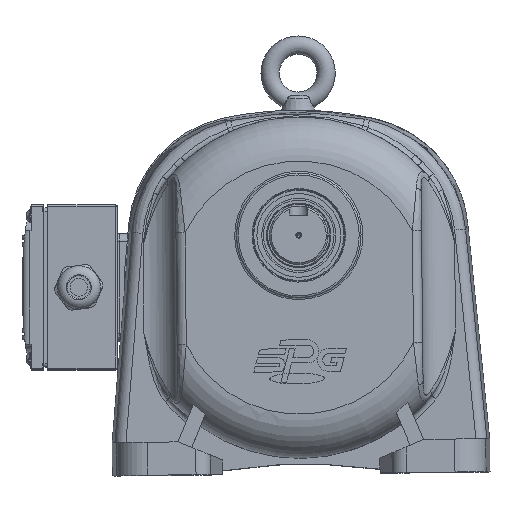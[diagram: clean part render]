
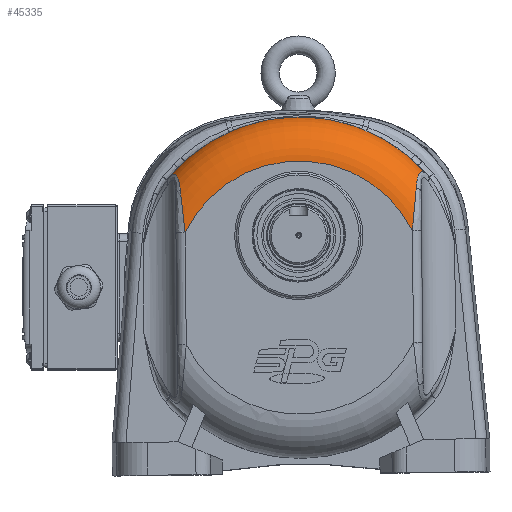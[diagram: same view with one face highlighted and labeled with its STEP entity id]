
A CAD part, top view. The second image highlights one B-rep face of the part: STEP entity #45335.
In plain terms, the highlighted toroidal (fillet/blend) face has major radius 69.104 mm and minor radius 24 mm.
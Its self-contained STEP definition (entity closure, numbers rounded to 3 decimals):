
#816=TOROIDAL_SURFACE('',#49215,69.104,24.);
#9258=FACE_OUTER_BOUND('',#12045,.T.);
#12045=EDGE_LOOP('',(#36399,#36400,#36401,#36402,#36403,#36404));
#15041=CIRCLE('',#49175,93.097);
#15051=CIRCLE('',#49216,69.104);
#17711=B_SPLINE_CURVE_WITH_KNOTS('',3,(#96805,#96806,#96807,#96808,#96809,
#96810,#96811,#96812,#96813,#96814),.UNSPECIFIED.,.F.,.F.,(4,1,1,1,1,1,
1,4),(-1.941,-1.664,-1.387,-1.109,
-0.832,-0.555,-0.277,0.),
 .UNSPECIFIED.);
#17712=B_SPLINE_CURVE_WITH_KNOTS('',3,(#96816,#96817,#96818,#96819,#96820,
#96821),.UNSPECIFIED.,.F.,.F.,(4,1,1,4),(-2.176,-1.243,
-0.622,0.),.UNSPECIFIED.);
#17713=B_SPLINE_CURVE_WITH_KNOTS('',3,(#96825,#96826,#96827,#96828,#96829,
#96830),.UNSPECIFIED.,.F.,.F.,(4,1,1,4),(-2.176,-1.554,
-0.932,0.),.UNSPECIFIED.);
#17714=B_SPLINE_CURVE_WITH_KNOTS('',3,(#96831,#96832,#96833,#96834,#96835,
#96836,#96837,#96838,#96839,#96840),.UNSPECIFIED.,.F.,.F.,(4,1,1,1,1,1,
1,4),(-1.942,-1.664,-1.387,-1.109,
-0.832,-0.555,-0.277,0.),
 .UNSPECIFIED.);
#20151=VERTEX_POINT('',#96152);
#20153=VERTEX_POINT('',#96172);
#20190=VERTEX_POINT('',#96804);
#20191=VERTEX_POINT('',#96815);
#20192=VERTEX_POINT('',#96822);
#20193=VERTEX_POINT('',#96824);
#25955=EDGE_CURVE('',#20151,#20153,#15041,.T.);
#26020=EDGE_CURVE('',#20190,#20153,#17711,.T.);
#26021=EDGE_CURVE('',#20191,#20190,#17712,.T.);
#26022=EDGE_CURVE('',#20191,#20192,#15051,.T.);
#26023=EDGE_CURVE('',#20193,#20192,#17713,.T.);
#26024=EDGE_CURVE('',#20151,#20193,#17714,.T.);
#36399=ORIENTED_EDGE('',*,*,#25955,.T.);
#36400=ORIENTED_EDGE('',*,*,#26020,.F.);
#36401=ORIENTED_EDGE('',*,*,#26021,.F.);
#36402=ORIENTED_EDGE('',*,*,#26022,.T.);
#36403=ORIENTED_EDGE('',*,*,#26023,.F.);
#36404=ORIENTED_EDGE('',*,*,#26024,.F.);
#45335=ADVANCED_FACE('',(#9258),#816,.T.);
#49175=AXIS2_PLACEMENT_3D('',#96177,#57517,#57518);
#49215=AXIS2_PLACEMENT_3D('',#96803,#57631,#57632);
#49216=AXIS2_PLACEMENT_3D('',#96823,#57633,#57634);
#57517=DIRECTION('center_axis',(0.,0.,
1.));
#57518=DIRECTION('ref_axis',(-0.769,0.639,0.));
#57631=DIRECTION('center_axis',(0.,0.,
1.));
#57632=DIRECTION('ref_axis',(1.,0.01,0.));
#57633=DIRECTION('center_axis',(0.,0.,
-1.));
#57634=DIRECTION('ref_axis',(0.893,0.451,0.));
#96152=CARTESIAN_POINT('',(154.215,115.611,23.051));
#96172=CARTESIAN_POINT('',(12.284,114.126,23.051));
#96177=CARTESIAN_POINT('Origin',(83.88,54.619,23.051));
#96803=CARTESIAN_POINT('Origin',(83.88,54.619,22.439));
#96804=CARTESIAN_POINT('',(18.965,107.671,41.386));
#96805=CARTESIAN_POINT('Ctrl Pts',(18.965,107.671,41.386));
#96806=CARTESIAN_POINT('Ctrl Pts',(18.864,108.605,40.865));
#96807=CARTESIAN_POINT('Ctrl Pts',(18.639,110.459,39.689));
#96808=CARTESIAN_POINT('Ctrl Pts',(18.192,112.977,37.516));
#96809=CARTESIAN_POINT('Ctrl Pts',(17.542,115.082,34.827));
#96810=CARTESIAN_POINT('Ctrl Pts',(16.577,116.409,31.648));
#96811=CARTESIAN_POINT('Ctrl Pts',(15.272,116.578,28.348));
#96812=CARTESIAN_POINT('Ctrl Pts',(13.791,115.711,25.413));
#96813=CARTESIAN_POINT('Ctrl Pts',(12.782,114.696,23.788));
#96814=CARTESIAN_POINT('Ctrl Pts',(12.284,114.126,23.051));
#96815=CARTESIAN_POINT('',(21.564,84.488,46.439));
#96816=CARTESIAN_POINT('Ctrl Pts',(21.564,84.488,46.439));
#96817=CARTESIAN_POINT('Ctrl Pts',(21.206,87.752,46.439));
#96818=CARTESIAN_POINT('Ctrl Pts',(20.571,93.315,46.128));
#96819=CARTESIAN_POINT('Ctrl Pts',(19.68,101.168,44.379));
#96820=CARTESIAN_POINT('Ctrl Pts',(19.193,105.576,42.553));
#96821=CARTESIAN_POINT('Ctrl Pts',(18.965,107.671,41.386));
#96822=CARTESIAN_POINT('',(145.557,85.785,46.439));
#96823=CARTESIAN_POINT('Origin',(83.88,54.619,46.439));
#96824=CARTESIAN_POINT('',(147.67,109.017,41.386));
#96825=CARTESIAN_POINT('Ctrl Pts',(147.67,109.017,41.386));
#96826=CARTESIAN_POINT('Ctrl Pts',(147.486,106.919,42.553));
#96827=CARTESIAN_POINT('Ctrl Pts',(147.091,102.501,44.38));
#96828=CARTESIAN_POINT('Ctrl Pts',(146.364,94.626,46.129));
#96829=CARTESIAN_POINT('Ctrl Pts',(145.847,89.056,46.439));
#96830=CARTESIAN_POINT('Ctrl Pts',(145.557,85.785,46.439));
#96831=CARTESIAN_POINT('Ctrl Pts',(154.215,115.611,23.051));
#96832=CARTESIAN_POINT('Ctrl Pts',(153.704,116.17,23.788));
#96833=CARTESIAN_POINT('Ctrl Pts',(152.665,117.171,25.43));
#96834=CARTESIAN_POINT('Ctrl Pts',(151.173,118.001,28.355));
#96835=CARTESIAN_POINT('Ctrl Pts',(149.865,117.798,31.676));
#96836=CARTESIAN_POINT('Ctrl Pts',(148.934,116.447,34.84));
#96837=CARTESIAN_POINT('Ctrl Pts',(148.33,114.331,37.524));
#96838=CARTESIAN_POINT('Ctrl Pts',(147.938,111.807,39.692));
#96839=CARTESIAN_POINT('Ctrl Pts',(147.752,109.954,40.865));
#96840=CARTESIAN_POINT('Ctrl Pts',(147.67,109.017,41.386));
